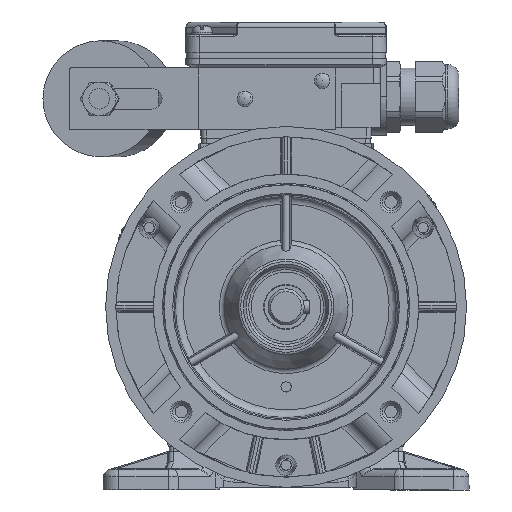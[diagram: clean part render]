
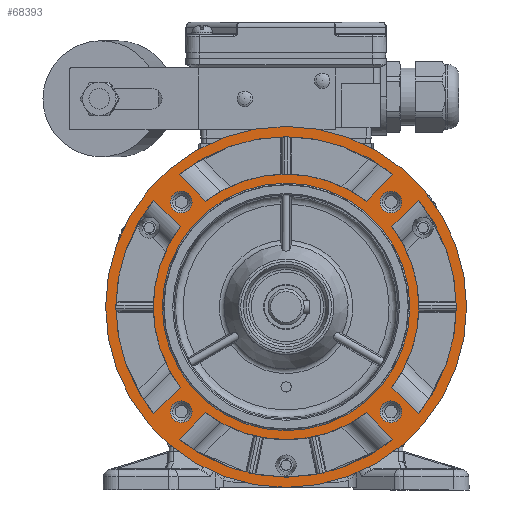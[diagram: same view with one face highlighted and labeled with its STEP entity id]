
A CAD part, front view. The second image highlights one B-rep face of the part: STEP entity #68393.
In plain terms, the highlighted planar face has unit normal (0, -1, 0).
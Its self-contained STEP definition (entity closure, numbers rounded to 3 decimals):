
#2615=CIRCLE('',#72442,48.);
#2616=CIRCLE('',#72444,51.5);
#2617=CIRCLE('',#72447,66.);
#2618=CIRCLE('',#72450,51.5);
#2619=CIRCLE('',#72453,66.);
#2620=CIRCLE('',#72456,51.5);
#2621=CIRCLE('',#72459,66.);
#2622=CIRCLE('',#72463,51.5);
#2623=CIRCLE('',#72466,66.);
#2624=CIRCLE('',#72468,4.2);
#2625=CIRCLE('',#72470,4.2);
#2626=CIRCLE('',#72472,4.2);
#2627=CIRCLE('',#72474,4.2);
#2675=CIRCLE('',#72583,70.);
#5997=LINE('',#103754,#9124);
#5998=LINE('',#103764,#9125);
#5999=LINE('',#103780,#9126);
#6000=LINE('',#103796,#9127);
#6001=LINE('',#103818,#9128);
#6002=LINE('',#103828,#9129);
#6003=LINE('',#103836,#9130);
#6004=LINE('',#103858,#9131);
#9124=VECTOR('',#82207,1000.);
#9125=VECTOR('',#82214,1000.);
#9126=VECTOR('',#82221,1000.);
#9127=VECTOR('',#82228,1000.);
#9128=VECTOR('',#82235,1000.);
#9129=VECTOR('',#82242,1000.);
#9130=VECTOR('',#82245,1000.);
#9131=VECTOR('',#82252,1000.);
#11118=PLANE('',#72582);
#20561=ORIENTED_EDGE('',*,*,#30635,.T.);
#20562=ORIENTED_EDGE('',*,*,#30634,.T.);
#20563=ORIENTED_EDGE('',*,*,#30633,.T.);
#20564=ORIENTED_EDGE('',*,*,#30632,.T.);
#20565=ORIENTED_EDGE('',*,*,#30631,.F.);
#20566=ORIENTED_EDGE('',*,*,#30630,.F.);
#20567=ORIENTED_EDGE('',*,*,#30627,.T.);
#20568=ORIENTED_EDGE('',*,*,#30625,.T.);
#20569=ORIENTED_EDGE('',*,*,#30623,.T.);
#20570=ORIENTED_EDGE('',*,*,#30621,.F.);
#20571=ORIENTED_EDGE('',*,*,#30620,.F.);
#20572=ORIENTED_EDGE('',*,*,#30617,.T.);
#20573=ORIENTED_EDGE('',*,*,#30615,.T.);
#20574=ORIENTED_EDGE('',*,*,#30613,.F.);
#20575=ORIENTED_EDGE('',*,*,#30611,.F.);
#20576=ORIENTED_EDGE('',*,*,#30609,.T.);
#20577=ORIENTED_EDGE('',*,*,#30607,.T.);
#20578=ORIENTED_EDGE('',*,*,#30605,.F.);
#20579=ORIENTED_EDGE('',*,*,#30604,.F.);
#20580=ORIENTED_EDGE('',*,*,#30601,.T.);
#20581=ORIENTED_EDGE('',*,*,#30599,.T.);
#20582=ORIENTED_EDGE('',*,*,#30775,.T.);
#30599=EDGE_CURVE('',#36443,#36443,#2615,.F.);
#30601=EDGE_CURVE('',#36445,#36444,#2616,.T.);
#30604=EDGE_CURVE('',#36445,#36446,#5997,.T.);
#30605=EDGE_CURVE('',#36446,#36447,#2617,.T.);
#30607=EDGE_CURVE('',#36444,#36447,#5998,.T.);
#30609=EDGE_CURVE('',#36449,#36448,#2618,.T.);
#30611=EDGE_CURVE('',#36449,#36450,#5999,.T.);
#30613=EDGE_CURVE('',#36450,#36451,#2619,.T.);
#30615=EDGE_CURVE('',#36448,#36451,#6000,.T.);
#30617=EDGE_CURVE('',#36453,#36452,#2620,.T.);
#30620=EDGE_CURVE('',#36453,#36454,#6001,.T.);
#30621=EDGE_CURVE('',#36454,#36455,#2621,.T.);
#30623=EDGE_CURVE('',#36452,#36455,#6002,.T.);
#30625=EDGE_CURVE('',#36457,#36456,#6003,.T.);
#30627=EDGE_CURVE('',#36458,#36457,#2622,.T.);
#30630=EDGE_CURVE('',#36458,#36459,#6004,.T.);
#30631=EDGE_CURVE('',#36459,#36456,#2623,.T.);
#30632=EDGE_CURVE('',#36460,#36460,#2624,.F.);
#30633=EDGE_CURVE('',#36461,#36461,#2625,.F.);
#30634=EDGE_CURVE('',#36462,#36462,#2626,.F.);
#30635=EDGE_CURVE('',#36463,#36463,#2627,.F.);
#30775=EDGE_CURVE('',#36545,#36545,#2675,.T.);
#36443=VERTEX_POINT('',#103732);
#36444=VERTEX_POINT('',#103739);
#36445=VERTEX_POINT('',#103741);
#36446=VERTEX_POINT('',#103753);
#36447=VERTEX_POINT('',#103757);
#36448=VERTEX_POINT('',#103771);
#36449=VERTEX_POINT('',#103773);
#36450=VERTEX_POINT('',#103781);
#36451=VERTEX_POINT('',#103789);
#36452=VERTEX_POINT('',#103803);
#36453=VERTEX_POINT('',#103805);
#36454=VERTEX_POINT('',#103817);
#36455=VERTEX_POINT('',#103821);
#36456=VERTEX_POINT('',#103835);
#36457=VERTEX_POINT('',#103837);
#36458=VERTEX_POINT('',#103845);
#36459=VERTEX_POINT('',#103857);
#36460=VERTEX_POINT('',#103863);
#36461=VERTEX_POINT('',#103866);
#36462=VERTEX_POINT('',#103869);
#36463=VERTEX_POINT('',#103872);
#36545=VERTEX_POINT('',#104617);
#42149=EDGE_LOOP('',(#20561));
#42150=EDGE_LOOP('',(#20562));
#42151=EDGE_LOOP('',(#20563));
#42152=EDGE_LOOP('',(#20564));
#42153=EDGE_LOOP('',(#20565,#20566,#20567,#20568));
#42154=EDGE_LOOP('',(#20569,#20570,#20571,#20572));
#42155=EDGE_LOOP('',(#20573,#20574,#20575,#20576));
#42156=EDGE_LOOP('',(#20577,#20578,#20579,#20580));
#42157=EDGE_LOOP('',(#20581));
#42158=EDGE_LOOP('',(#20582));
#45471=FACE_BOUND('',#42149,.T.);
#45472=FACE_BOUND('',#42150,.T.);
#45473=FACE_BOUND('',#42151,.T.);
#45474=FACE_BOUND('',#42152,.T.);
#45475=FACE_BOUND('',#42153,.T.);
#45476=FACE_BOUND('',#42154,.T.);
#45477=FACE_BOUND('',#42155,.T.);
#45478=FACE_BOUND('',#42156,.T.);
#45479=FACE_BOUND('',#42157,.T.);
#45480=FACE_BOUND('',#42158,.T.);
#68393=ADVANCED_FACE('',(#45471,#45472,#45473,#45474,#45475,#45476,#45477,
#45478,#45479,#45480),#11118,.T.);
#72442=AXIS2_PLACEMENT_3D('',#103731,#82199,#82200);
#72444=AXIS2_PLACEMENT_3D('',#103740,#82203,#82204);
#72447=AXIS2_PLACEMENT_3D('',#103756,#82210,#82211);
#72450=AXIS2_PLACEMENT_3D('',#103772,#82217,#82218);
#72453=AXIS2_PLACEMENT_3D('',#103788,#82224,#82225);
#72456=AXIS2_PLACEMENT_3D('',#103804,#82231,#82232);
#72459=AXIS2_PLACEMENT_3D('',#103820,#82238,#82239);
#72463=AXIS2_PLACEMENT_3D('',#103844,#82248,#82249);
#72466=AXIS2_PLACEMENT_3D('',#103860,#82255,#82256);
#72468=AXIS2_PLACEMENT_3D('',#103862,#82259,#82260);
#72470=AXIS2_PLACEMENT_3D('',#103865,#82263,#82264);
#72472=AXIS2_PLACEMENT_3D('',#103868,#82267,#82268);
#72474=AXIS2_PLACEMENT_3D('',#103871,#82271,#82272);
#72582=AXIS2_PLACEMENT_3D('',#104615,#82507,#82508);
#72583=AXIS2_PLACEMENT_3D('',#104616,#82509,#82510);
#82199=DIRECTION('',(0.,-1.,0.));
#82200=DIRECTION('',(0.,0.,1.));
#82203=DIRECTION('',(0.,-1.,0.));
#82204=DIRECTION('',(0.,0.,1.));
#82207=DIRECTION('',(0.707,0.,0.707));
#82210=DIRECTION('',(0.,-1.,0.));
#82211=DIRECTION('',(0.,0.,1.));
#82214=DIRECTION('',(-0.707,0.,0.707));
#82217=DIRECTION('',(0.,-1.,0.));
#82218=DIRECTION('',(0.,0.,1.));
#82221=DIRECTION('',(-0.707,0.,0.707));
#82224=DIRECTION('',(0.,-1.,0.));
#82225=DIRECTION('',(0.,0.,1.));
#82228=DIRECTION('',(-0.707,0.,-0.707));
#82231=DIRECTION('',(0.,-1.,0.));
#82232=DIRECTION('',(0.,0.,1.));
#82235=DIRECTION('',(-0.707,0.,-0.707));
#82238=DIRECTION('',(0.,-1.,0.));
#82239=DIRECTION('',(0.,0.,1.));
#82242=DIRECTION('',(0.707,0.,-0.707));
#82245=DIRECTION('',(0.707,0.,0.707));
#82248=DIRECTION('',(0.,-1.,0.));
#82249=DIRECTION('',(0.,0.,1.));
#82252=DIRECTION('',(0.707,0.,-0.707));
#82255=DIRECTION('',(0.,-1.,0.));
#82256=DIRECTION('',(0.,0.,1.));
#82259=DIRECTION('',(0.,-1.,0.));
#82260=DIRECTION('',(0.,0.,1.));
#82263=DIRECTION('',(0.,-1.,0.));
#82264=DIRECTION('',(0.,0.,1.));
#82267=DIRECTION('',(0.,-1.,0.));
#82268=DIRECTION('',(0.,0.,1.));
#82271=DIRECTION('',(0.,-1.,0.));
#82272=DIRECTION('',(0.,0.,1.));
#82507=DIRECTION('',(0.,-1.,0.));
#82508=DIRECTION('',(0.,0.,1.));
#82509=DIRECTION('',(0.,-1.,0.));
#82510=DIRECTION('',(0.,0.,1.));
#103731=CARTESIAN_POINT('',(0.,-90.,0.));
#103732=CARTESIAN_POINT('',(0.,-90.,48.));
#103739=CARTESIAN_POINT('',(-31.128,-90.,41.028));
#103740=CARTESIAN_POINT('',(0.,-90.,0.));
#103741=CARTESIAN_POINT('',(31.128,-90.,41.028));
#103753=CARTESIAN_POINT('',(41.456,-90.,51.356));
#103754=CARTESIAN_POINT('',(29.217,-90.,39.116));
#103756=CARTESIAN_POINT('',(0.,-90.,0.));
#103757=CARTESIAN_POINT('',(-41.456,-90.,51.356));
#103764=CARTESIAN_POINT('',(-29.217,-90.,39.116));
#103771=CARTESIAN_POINT('',(-41.028,-90.,-31.128));
#103772=CARTESIAN_POINT('',(0.,-90.,0.));
#103773=CARTESIAN_POINT('',(-41.028,-90.,31.128));
#103780=CARTESIAN_POINT('',(-39.116,-90.,29.217));
#103781=CARTESIAN_POINT('',(-51.356,-90.,41.456));
#103788=CARTESIAN_POINT('',(0.,-90.,0.));
#103789=CARTESIAN_POINT('',(-51.356,-90.,-41.456));
#103796=CARTESIAN_POINT('',(-39.116,-90.,-29.217));
#103803=CARTESIAN_POINT('',(31.128,-90.,-41.028));
#103804=CARTESIAN_POINT('',(0.,-90.,0.));
#103805=CARTESIAN_POINT('',(-31.128,-90.,-41.028));
#103817=CARTESIAN_POINT('',(-41.456,-90.,-51.356));
#103818=CARTESIAN_POINT('',(-29.217,-90.,-39.116));
#103820=CARTESIAN_POINT('',(0.,-90.,0.));
#103821=CARTESIAN_POINT('',(41.456,-90.,-51.356));
#103828=CARTESIAN_POINT('',(29.217,-90.,-39.116));
#103835=CARTESIAN_POINT('',(51.356,-90.,41.456));
#103836=CARTESIAN_POINT('',(39.116,-90.,29.217));
#103837=CARTESIAN_POINT('',(41.028,-90.,31.128));
#103844=CARTESIAN_POINT('',(0.,-90.,0.));
#103845=CARTESIAN_POINT('',(41.028,-90.,-31.128));
#103857=CARTESIAN_POINT('',(51.356,-90.,-41.456));
#103858=CARTESIAN_POINT('',(39.116,-90.,-29.217));
#103860=CARTESIAN_POINT('',(0.,-90.,0.));
#103862=CARTESIAN_POINT('',(-40.659,-90.,40.659));
#103863=CARTESIAN_POINT('',(-40.659,-90.,44.859));
#103865=CARTESIAN_POINT('',(40.659,-90.,40.659));
#103866=CARTESIAN_POINT('',(40.659,-90.,44.859));
#103868=CARTESIAN_POINT('',(40.659,-90.,-40.659));
#103869=CARTESIAN_POINT('',(40.659,-90.,-36.459));
#103871=CARTESIAN_POINT('',(-40.659,-90.,-40.659));
#103872=CARTESIAN_POINT('',(-40.659,-90.,-36.459));
#104615=CARTESIAN_POINT('',(0.,-90.,47.5));
#104616=CARTESIAN_POINT('',(0.,-90.,0.));
#104617=CARTESIAN_POINT('',(0.,-90.,70.));
